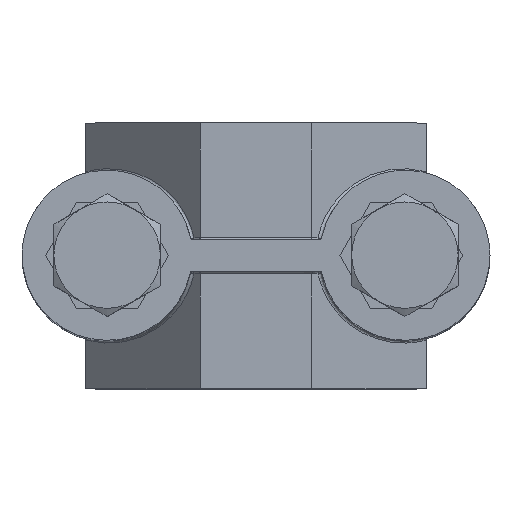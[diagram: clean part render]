
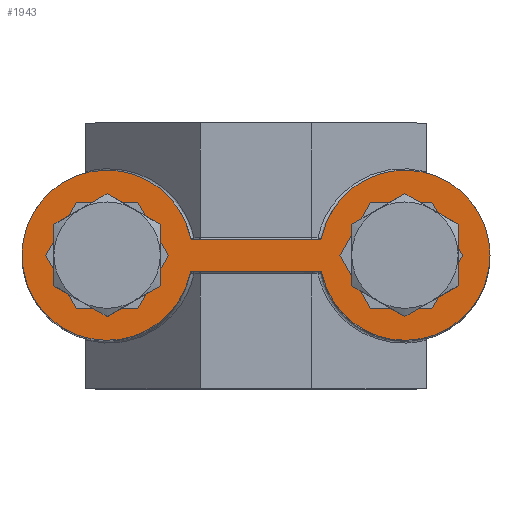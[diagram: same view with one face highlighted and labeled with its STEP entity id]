
A CAD part, top view. The second image highlights one B-rep face of the part: STEP entity #1943.
In plain terms, the highlighted planar face has unit normal (0, 0, 1).
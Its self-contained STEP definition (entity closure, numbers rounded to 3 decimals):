
#84=CARTESIAN_POINT('',(-5.978,-1.5,20.0));
#85=VERTEX_POINT('',#84);
#92=CARTESIAN_POINT('',(-6.174,-1.659,20.0));
#93=VERTEX_POINT('',#92);
#94=CARTESIAN_POINT('',(-5.978,-1.7,20.0));
#95=DIRECTION('',(0.0,0.0,1.0));
#96=DIRECTION('',(-0.63,0.777,0.0));
#97=AXIS2_PLACEMENT_3D('',#94,#95,#96);
#98=CIRCLE('',#97,0.2);
#99=EDGE_CURVE('',#85,#93,#98,.T.);
#220=CARTESIAN_POINT('',(5.978,-1.5,20.0));
#221=VERTEX_POINT('',#220);
#228=CARTESIAN_POINT('',(5.978,-1.5,20.0));
#229=DIRECTION('',(-1.0,0.0,0.0));
#230=VECTOR('',#229,11.956);
#231=LINE('',#228,#230);
#232=EDGE_CURVE('',#221,#85,#231,.T.);
#284=CARTESIAN_POINT('',(6.174,-1.659,20.0));
#285=VERTEX_POINT('',#284);
#292=CARTESIAN_POINT('',(5.978,-1.7,20.0));
#293=DIRECTION('',(0.0,0.0,1.0));
#294=DIRECTION('',(0.63,0.777,0.0));
#295=AXIS2_PLACEMENT_3D('',#292,#293,#294);
#296=CIRCLE('',#295,0.2);
#297=EDGE_CURVE('',#285,#221,#296,.T.);
#406=CARTESIAN_POINT('',(-6.174,1.659,20.0));
#407=VERTEX_POINT('',#406);
#414=CARTESIAN_POINT('',(-5.978,1.5,20.0));
#415=VERTEX_POINT('',#414);
#416=CARTESIAN_POINT('',(-5.978,1.7,20.0));
#417=DIRECTION('',(0.0,0.0,1.));
#418=DIRECTION('',(-0.63,-0.777,0.0));
#419=AXIS2_PLACEMENT_3D('',#416,#417,#418);
#420=CIRCLE('',#419,0.2);
#421=EDGE_CURVE('',#407,#415,#420,.T.);
#494=CARTESIAN_POINT('',(5.978,1.5,20.0));
#495=VERTEX_POINT('',#494);
#496=CARTESIAN_POINT('',(-5.978,1.5,20.0));
#497=DIRECTION('',(1.0,0.0,0.0));
#498=VECTOR('',#497,11.956);
#499=LINE('',#496,#498);
#500=EDGE_CURVE('',#415,#495,#499,.T.);
#534=CARTESIAN_POINT('',(6.174,1.659,20.0));
#535=VERTEX_POINT('',#534);
#536=CARTESIAN_POINT('',(5.978,1.7,20.0));
#537=DIRECTION('',(0.0,0.0,1.));
#538=DIRECTION('',(0.63,-0.777,0.0));
#539=AXIS2_PLACEMENT_3D('',#536,#537,#538);
#540=CIRCLE('',#539,0.2);
#541=EDGE_CURVE('',#495,#535,#540,.T.);
#885=CARTESIAN_POINT('',(-14.0,0.,20.0));
#886=DIRECTION('',(0.0,0.0,-1.0));
#887=DIRECTION('',(1.0,0.0,0.0));
#888=AXIS2_PLACEMENT_3D('',#885,#886,#887);
#889=CIRCLE('',#888,8.0);
#890=EDGE_CURVE('',#93,#407,#889,.T.);
#1127=CARTESIAN_POINT('',(14.0,0.,20.0));
#1128=DIRECTION('',(0.0,0.0,-1.0));
#1129=DIRECTION('',(1.0,0.0,0.0));
#1130=AXIS2_PLACEMENT_3D('',#1127,#1128,#1129);
#1131=CIRCLE('',#1130,8.0);
#1132=EDGE_CURVE('',#535,#285,#1131,.T.);
#1348=CARTESIAN_POINT('',(7.886,0.,20.0));
#1349=VERTEX_POINT('',#1348);
#1356=CARTESIAN_POINT('',(10.772,-5.,20.0));
#1357=VERTEX_POINT('',#1356);
#1358=CARTESIAN_POINT('',(10.772,-5.,20.0));
#1359=DIRECTION('',(-0.5,0.866,0.0));
#1360=VECTOR('',#1359,5.774);
#1361=LINE('',#1358,#1360);
#1362=EDGE_CURVE('',#1357,#1349,#1361,.T.);
#1387=CARTESIAN_POINT('',(16.546,-5.,20.0));
#1388=VERTEX_POINT('',#1387);
#1389=CARTESIAN_POINT('',(16.546,-5.,20.0));
#1390=DIRECTION('',(-1.0,0.0,0.0));
#1391=VECTOR('',#1390,5.774);
#1392=LINE('',#1389,#1391);
#1393=EDGE_CURVE('',#1388,#1357,#1392,.T.);
#1418=CARTESIAN_POINT('',(19.433,0.,20.0));
#1419=VERTEX_POINT('',#1418);
#1420=CARTESIAN_POINT('',(19.433,0.,20.0));
#1421=DIRECTION('',(-0.5,-0.866,0.0));
#1422=VECTOR('',#1421,5.774);
#1423=LINE('',#1420,#1422);
#1424=EDGE_CURVE('',#1419,#1388,#1423,.T.);
#1449=CARTESIAN_POINT('',(16.546,5.,20.0));
#1450=VERTEX_POINT('',#1449);
#1451=CARTESIAN_POINT('',(16.546,5.,20.0));
#1452=DIRECTION('',(0.5,-0.866,0.0));
#1453=VECTOR('',#1452,5.774);
#1454=LINE('',#1451,#1453);
#1455=EDGE_CURVE('',#1450,#1419,#1454,.T.);
#1480=CARTESIAN_POINT('',(10.772,5.,20.0));
#1481=VERTEX_POINT('',#1480);
#1482=CARTESIAN_POINT('',(10.772,5.,20.0));
#1483=DIRECTION('',(1.0,0.0,0.0));
#1484=VECTOR('',#1483,5.774);
#1485=LINE('',#1482,#1484);
#1486=EDGE_CURVE('',#1481,#1450,#1485,.T.);
#1509=CARTESIAN_POINT('',(7.886,0.,20.0));
#1510=DIRECTION('',(0.5,0.866,0.0));
#1511=VECTOR('',#1510,5.774);
#1512=LINE('',#1509,#1511);
#1513=EDGE_CURVE('',#1349,#1481,#1512,.T.);
#1559=CARTESIAN_POINT('',(-16.887,-5.,20.0));
#1560=VERTEX_POINT('',#1559);
#1567=CARTESIAN_POINT('',(-11.113,-5.,20.0));
#1568=VERTEX_POINT('',#1567);
#1569=CARTESIAN_POINT('',(-11.113,-5.,20.0));
#1570=DIRECTION('',(-1.0,0.0,0.0));
#1571=VECTOR('',#1570,5.774);
#1572=LINE('',#1569,#1571);
#1573=EDGE_CURVE('',#1568,#1560,#1572,.T.);
#1598=CARTESIAN_POINT('',(-8.226,0.,20.0));
#1599=VERTEX_POINT('',#1598);
#1600=CARTESIAN_POINT('',(-8.226,0.,20.0));
#1601=DIRECTION('',(-0.5,-0.866,0.0));
#1602=VECTOR('',#1601,5.774);
#1603=LINE('',#1600,#1602);
#1604=EDGE_CURVE('',#1599,#1568,#1603,.T.);
#1629=CARTESIAN_POINT('',(-11.113,5.,20.0));
#1630=VERTEX_POINT('',#1629);
#1631=CARTESIAN_POINT('',(-11.113,5.,20.0));
#1632=DIRECTION('',(0.5,-0.866,0.0));
#1633=VECTOR('',#1632,5.774);
#1634=LINE('',#1631,#1633);
#1635=EDGE_CURVE('',#1630,#1599,#1634,.T.);
#1660=CARTESIAN_POINT('',(-16.887,5.,20.0));
#1661=VERTEX_POINT('',#1660);
#1662=CARTESIAN_POINT('',(-16.887,5.,20.0));
#1663=DIRECTION('',(1.0,0.0,0.0));
#1664=VECTOR('',#1663,5.774);
#1665=LINE('',#1662,#1664);
#1666=EDGE_CURVE('',#1661,#1630,#1665,.T.);
#1691=CARTESIAN_POINT('',(-19.774,0.,20.0));
#1692=VERTEX_POINT('',#1691);
#1693=CARTESIAN_POINT('',(-19.774,0.,20.0));
#1694=DIRECTION('',(0.5,0.866,0.0));
#1695=VECTOR('',#1694,5.774);
#1696=LINE('',#1693,#1695);
#1697=EDGE_CURVE('',#1692,#1661,#1696,.T.);
#1720=CARTESIAN_POINT('',(-16.887,-5.,20.0));
#1721=DIRECTION('',(-0.5,0.866,0.0));
#1722=VECTOR('',#1721,5.774);
#1723=LINE('',#1720,#1722);
#1724=EDGE_CURVE('',#1560,#1692,#1723,.T.);
#1912=CARTESIAN_POINT('',(0.,0.,20.0));
#1913=DIRECTION('',(0.0,0.0,1.0));
#1914=DIRECTION('',(1.0,0.0,0.0));
#1915=AXIS2_PLACEMENT_3D('',#1912,#1913,#1914);
#1916=PLANE('',#1915);
#1917=ORIENTED_EDGE('',*,*,#1132,.F.);
#1918=ORIENTED_EDGE('',*,*,#541,.F.);
#1919=ORIENTED_EDGE('',*,*,#500,.F.);
#1920=ORIENTED_EDGE('',*,*,#421,.F.);
#1921=ORIENTED_EDGE('',*,*,#890,.F.);
#1922=ORIENTED_EDGE('',*,*,#99,.F.);
#1923=ORIENTED_EDGE('',*,*,#232,.F.);
#1924=ORIENTED_EDGE('',*,*,#297,.F.);
#1925=EDGE_LOOP('',(#1917,#1918,#1919,#1920,#1921,#1922,#1923,#1924));
#1926=FACE_OUTER_BOUND('',#1925,.T.);
#1927=ORIENTED_EDGE('',*,*,#1362,.T.);
#1928=ORIENTED_EDGE('',*,*,#1513,.T.);
#1929=ORIENTED_EDGE('',*,*,#1486,.T.);
#1930=ORIENTED_EDGE('',*,*,#1455,.T.);
#1931=ORIENTED_EDGE('',*,*,#1424,.T.);
#1932=ORIENTED_EDGE('',*,*,#1393,.T.);
#1933=EDGE_LOOP('',(#1927,#1928,#1929,#1930,#1931,#1932));
#1934=FACE_BOUND('',#1933,.T.);
#1935=ORIENTED_EDGE('',*,*,#1573,.T.);
#1936=ORIENTED_EDGE('',*,*,#1724,.T.);
#1937=ORIENTED_EDGE('',*,*,#1697,.T.);
#1938=ORIENTED_EDGE('',*,*,#1666,.T.);
#1939=ORIENTED_EDGE('',*,*,#1635,.T.);
#1940=ORIENTED_EDGE('',*,*,#1604,.T.);
#1941=EDGE_LOOP('',(#1935,#1936,#1937,#1938,#1939,#1940));
#1942=FACE_BOUND('',#1941,.T.);
#1943=ADVANCED_FACE('',(#1926,#1934,#1942),#1916,.T.);
